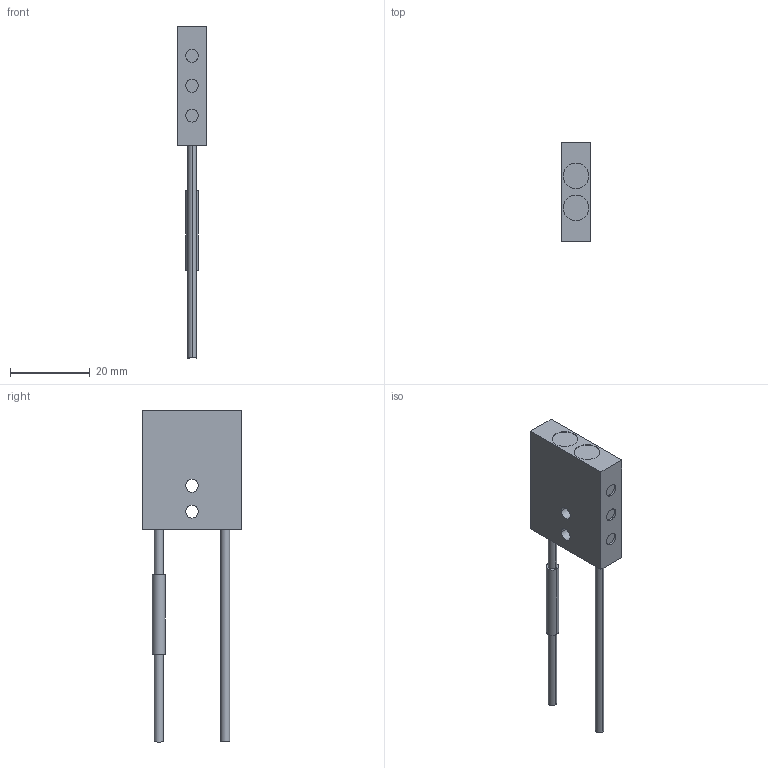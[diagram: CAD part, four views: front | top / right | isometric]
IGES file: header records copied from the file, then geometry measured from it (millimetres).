
Start section: SolidWorks IGES FILE using analytic representation for surfaces
Global section: file name: C:\Documents and Settings\yk0651\デスクトップ\3D_catalog_050904\0_IGES\FD-L46.IGS; native system: SolidWorks 2004 by SolidWorks Corporation; preprocessor: Version 5.3; author: yk0651; date: 050904.190805; units: millimetre
Bounding box: 7.3 x 25 x 83.3 mm (x, y, z)
Volume: 5797.3 mm3; surface area: 3249.2 mm2
Topology: 1 solids, 1 shells, 50 faces, 104 edges, 68 vertices
Faces by surface type: revolution 32, plane 18
